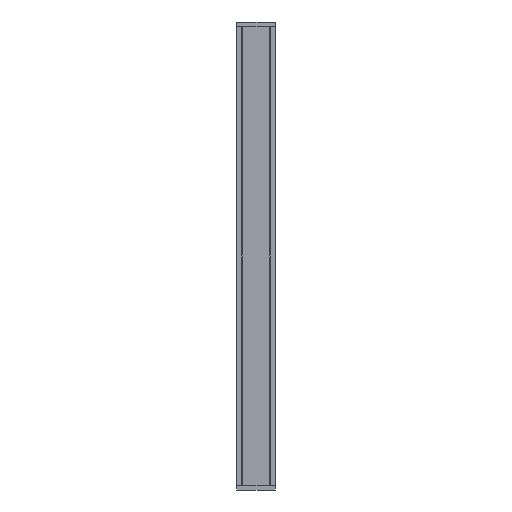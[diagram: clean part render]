
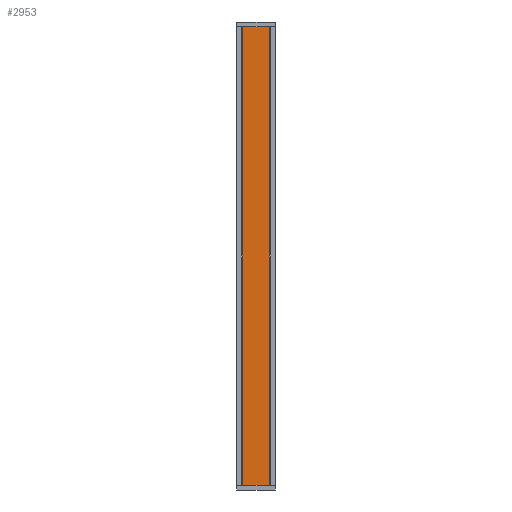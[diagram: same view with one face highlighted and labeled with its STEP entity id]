
A CAD part, front view. The second image highlights one B-rep face of the part: STEP entity #2953.
In plain terms, the highlighted planar face has unit normal (0, -1, 0).
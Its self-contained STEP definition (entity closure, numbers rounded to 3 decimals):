
#618 = CARTESIAN_POINT ( 'NONE',  ( -33.582, 1.141, 562. ) ) ;
#1565 = ORIENTED_EDGE ( 'NONE', *, *, #9432, .F. ) ;
#2441 = CARTESIAN_POINT ( 'NONE',  ( -33.582, 1.141, -562. ) ) ;
#2953 = ADVANCED_FACE ( 'NONE', ( #6830 ), #4973, .F. ) ;
#2972 = EDGE_CURVE ( 'NONE', #5130, #8636, #3689, .T. ) ;
#3135 = VECTOR ( 'NONE', #11121, 1000. ) ;
#3688 = EDGE_LOOP ( 'NONE', ( #4026, #1565, #9062, #6083 ) ) ;
#3689 = LINE ( 'NONE', #618, #3135 ) ;
#3775 = CARTESIAN_POINT ( 'NONE',  ( 33.582, 1.141, -562. ) ) ;
#4026 = ORIENTED_EDGE ( 'NONE', *, *, #6393, .T. ) ;
#4973 = PLANE ( 'NONE',  #7931 ) ;
#5123 = VERTEX_POINT ( 'NONE', #6755 ) ;
#5130 = VERTEX_POINT ( 'NONE', #8439 ) ;
#5390 = DIRECTION ( 'NONE',  ( 0., 0., -1. ) ) ;
#5457 = CARTESIAN_POINT ( 'NONE',  ( 33.582, 1.141, 562. ) ) ;
#5913 = LINE ( 'NONE', #5457, #7129 ) ;
#6083 = ORIENTED_EDGE ( 'NONE', *, *, #2972, .T. ) ;
#6148 = VECTOR ( 'NONE', #7331, 1000. ) ;
#6393 = EDGE_CURVE ( 'NONE', #8636, #7923, #8984, .T. ) ;
#6755 = CARTESIAN_POINT ( 'NONE',  ( 33.582, 1.141, 562. ) ) ;
#6830 = FACE_OUTER_BOUND ( 'NONE', #3688, .T. ) ;
#7129 = VECTOR ( 'NONE', #5390, 1000. ) ;
#7331 = DIRECTION ( 'NONE',  ( 1., 0., 0. ) ) ;
#7532 = VECTOR ( 'NONE', #9624, 1000. ) ;
#7874 = CARTESIAN_POINT ( 'NONE',  ( -33.582, 1.141, 562. ) ) ;
#7923 = VERTEX_POINT ( 'NONE', #3775 ) ;
#7925 = LINE ( 'NONE', #7874, #7532 ) ;
#7931 = AXIS2_PLACEMENT_3D ( 'NONE', #10216, #11044, #10328 ) ;
#8229 = CARTESIAN_POINT ( 'NONE',  ( -33.582, 1.141, -562. ) ) ;
#8439 = CARTESIAN_POINT ( 'NONE',  ( -33.582, 1.141, 562. ) ) ;
#8636 = VERTEX_POINT ( 'NONE', #2441 ) ;
#8917 = EDGE_CURVE ( 'NONE', #5130, #5123, #7925, .T. ) ;
#8984 = LINE ( 'NONE', #8229, #6148 ) ;
#9062 = ORIENTED_EDGE ( 'NONE', *, *, #8917, .F. ) ;
#9432 = EDGE_CURVE ( 'NONE', #5123, #7923, #5913, .T. ) ;
#9624 = DIRECTION ( 'NONE',  ( 1., 0., 0. ) ) ;
#10216 = CARTESIAN_POINT ( 'NONE',  ( -33.582, 1.141, 562. ) ) ;
#10328 = DIRECTION ( 'NONE',  ( -1., 0., 0. ) ) ;
#11044 = DIRECTION ( 'NONE',  ( 0., 1., 0. ) ) ;
#11121 = DIRECTION ( 'NONE',  ( 0., 0., -1. ) ) ;
